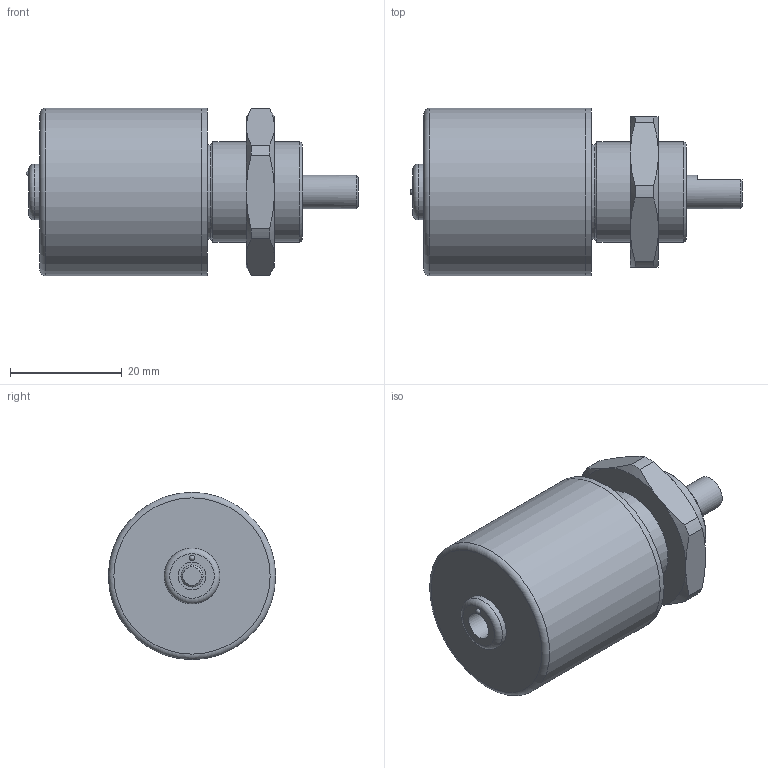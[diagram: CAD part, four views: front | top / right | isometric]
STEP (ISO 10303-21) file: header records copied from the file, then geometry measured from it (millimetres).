
FILE_DESCRIPTION( ( 'Unknown' ), '1' );
FILE_NAME( 'X:/I - Italia/UT - Ufficio Tecnico/Documenti Tecnico/Schede prodotti/InDesign/Assiemi SolidEdge per cataloghi/STEP ASSIEMI/EL30H.stp', 'Unknown', ( 'Unknown' ), ( 'Unknown' ), 'PSStep 15.0.49', 'Unknown', ' ' );
FILE_SCHEMA( ( 'AUTOMOTIVE_DESIGN { 1 0 10303 214 1 1 1 1 }' ) );
Length unit declared in the file: millimetre
Products named in the file (1): 23300024
Bounding box: 59.5 x 30 x 30 mm (x, y, z)
Volume: 13585.7 mm3; surface area: 12028.6 mm2
Topology: 1 solids, 3 shells, 148 faces, 355 edges, 228 vertices
Faces by surface type: cylinder 50, plane 50, cone 30, torus 9, sphere 5, bspline 4
Full cylindrical faces by diameter (mm): 2.013 x2, 3.2 x1, 4 x1, 5 x1, 6 x5, 6.5 x1, 7.5 x1, 8.5 x4, 10 x3, 10.5 x4, 12.8 x1, 13 x2, 14.999 x1, 15.299 x1, 16.999 x1, 17.999 x2, 27.599 x1, 28.004 x2, 29.999 x1, 30 x1
Entity records: 7105 total; most frequent: CARTESIAN_POINT 3055, DIRECTION 600, ORIENTED_EDGE 490, AXIS2_PLACEMENT_3D 276, EDGE_LOOP 253, EDGE_CURVE 245, VERTEX_POINT 194, FACE_OUTER_BOUND 186
